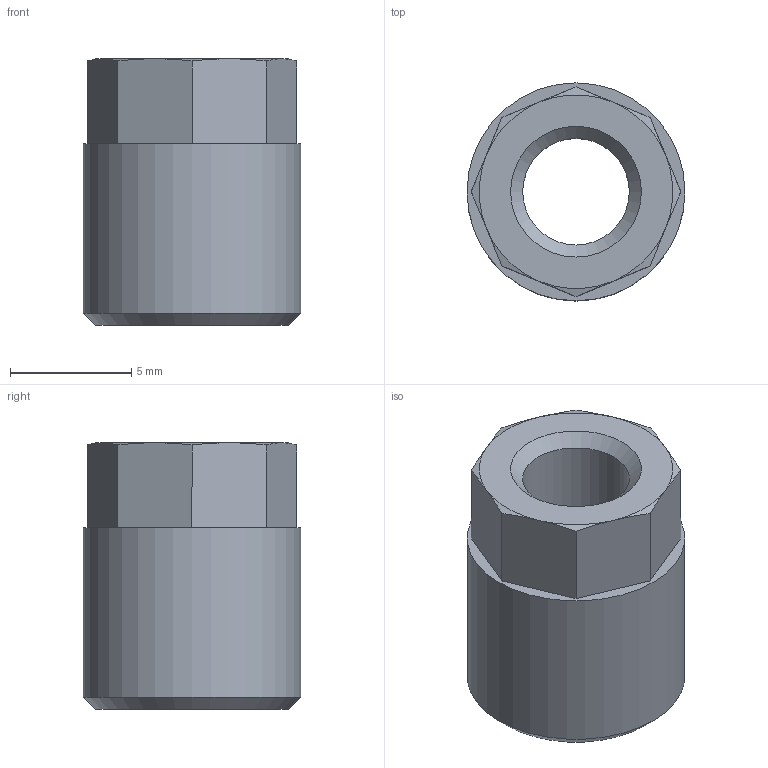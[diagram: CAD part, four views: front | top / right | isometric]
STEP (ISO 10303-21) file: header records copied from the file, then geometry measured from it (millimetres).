
FILE_DESCRIPTION(/* description */ (''),/* implementation_level */ '2;1');
FILE_NAME(/* name */ '17002_310_4,33_M7X0,75_15.08.17',/* time_stamp */ '2017-08-15T08:56:34+02:00',/* author */ (''),/* organization */ (''),/* preprocessor_version */ 'ST-DEVELOPER v16.5',/* originating_system */ 'HiCAD 2016 2102.2 Build 618',/* authorisation */ '');
FILE_SCHEMA (('AUTOMOTIVE_DESIGN { 1 0 10303 214 1 1 1 1 }'));
Length unit declared in the file: millimetre
Products named in the file (2): Root; 17002
Assembly tree (1 placements, depth 2):
  Root
    17002
Bounding box: 9 x 9 x 11 mm (x, y, z)
Volume: 394.3 mm3; surface area: 564.5 mm2
Topology: 1 solids, 1 shells, 27 faces, 63 edges, 39 vertices
Faces by surface type: cone 12, plane 11, cylinder 3, torus 1
Full cylindrical faces by diameter (mm): 4.4 x1, 6.08 x1, 9 x1
Entity records: 1234 total; most frequent: DIRECTION 142, CARTESIAN_POINT 113, PRESENTATION_STYLE_ASSIGNMENT 101, COLOUR_RGB 101, DRAUGHTING_PRE_DEFINED_CURVE_FONT 100, CURVE_STYLE 100, OVER_RIDING_STYLED_ITEM 100, ORIENTED_EDGE 100
